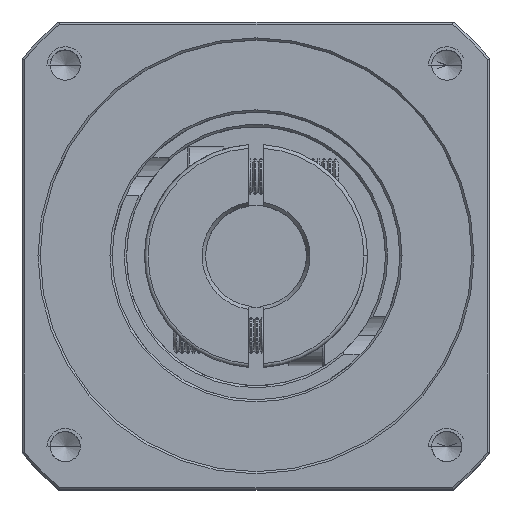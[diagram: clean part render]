
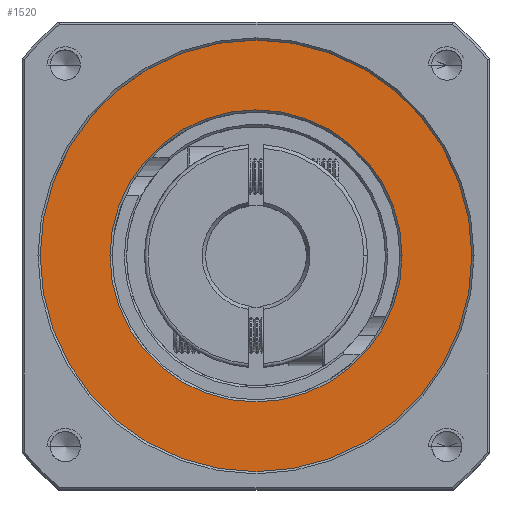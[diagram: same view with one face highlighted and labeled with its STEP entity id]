
A CAD part, top view. The second image highlights one B-rep face of the part: STEP entity #1520.
In plain terms, the highlighted planar face has unit normal (0, 0, 1).
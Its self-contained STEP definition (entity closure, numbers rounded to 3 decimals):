
#1500 = DIRECTION ( 'NONE',  ( 1., 0., 0. ) ) ;
#1520 = ADVANCED_FACE ( 'NONE', ( #51260, #32848 ), #10464, .T. ) ;
#2275 = DIRECTION ( 'NONE',  ( 0., 0., -1. ) ) ;
#4952 = EDGE_LOOP ( 'NONE', ( #49680, #50543 ) ) ;
#7741 = DIRECTION ( 'NONE',  ( 1., 0., 0. ) ) ;
#8182 = AXIS2_PLACEMENT_3D ( 'NONE', #49224, #2275, #57162 ) ;
#10464 = PLANE ( 'NONE',  #51450 ) ;
#10751 = CIRCLE ( 'NONE', #76018, 30. ) ;
#14114 = CARTESIAN_POINT ( 'NONE',  ( -44.957, 22.264, 44.201 ) ) ;
#20878 = EDGE_CURVE ( 'NONE', #69646, #21888, #10751, .T. ) ;
#21888 = VERTEX_POINT ( 'NONE', #14114 ) ;
#25643 = EDGE_LOOP ( 'NONE', ( #31709, #58316 ) ) ;
#26237 = CARTESIAN_POINT ( 'NONE',  ( -104.957, 22.264, 44.201 ) ) ;
#31709 = ORIENTED_EDGE ( 'NONE', *, *, #86181, .T. ) ;
#32848 = FACE_OUTER_BOUND ( 'NONE', #4952, .T. ) ;
#34864 = DIRECTION ( 'NONE',  ( 0., 0., 1. ) ) ;
#41991 = CARTESIAN_POINT ( 'NONE',  ( -74.957, 22.264, 44.201 ) ) ;
#46244 = CIRCLE ( 'NONE', #49422, 30. ) ;
#47996 = CARTESIAN_POINT ( 'NONE',  ( -54.657, 22.264, 44.201 ) ) ;
#48282 = CIRCLE ( 'NONE', #8182, 20.3 ) ;
#48414 = DIRECTION ( 'NONE',  ( 0., 0., 1. ) ) ;
#49224 = CARTESIAN_POINT ( 'NONE',  ( -74.957, 22.264, 44.201 ) ) ;
#49422 = AXIS2_PLACEMENT_3D ( 'NONE', #81907, #34864, #89807 ) ;
#49680 = ORIENTED_EDGE ( 'NONE', *, *, #59135, .T. ) ;
#49936 = DIRECTION ( 'NONE',  ( 1., 0., 0. ) ) ;
#50543 = ORIENTED_EDGE ( 'NONE', *, *, #20878, .T. ) ;
#51260 = FACE_BOUND ( 'NONE', #25643, .T. ) ;
#51450 = AXIS2_PLACEMENT_3D ( 'NONE', #41991, #96992, #49936 ) ;
#54776 = DIRECTION ( 'NONE',  ( 0., 0., -1. ) ) ;
#57162 = DIRECTION ( 'NONE',  ( 1., 0., 0. ) ) ;
#58316 = ORIENTED_EDGE ( 'NONE', *, *, #89590, .T. ) ;
#59135 = EDGE_CURVE ( 'NONE', #21888, #69646, #46244, .T. ) ;
#69646 = VERTEX_POINT ( 'NONE', #26237 ) ;
#76018 = AXIS2_PLACEMENT_3D ( 'NONE', #95498, #48414, #1500 ) ;
#79577 = CARTESIAN_POINT ( 'NONE',  ( -95.257, 22.264, 44.201 ) ) ;
#81535 = AXIS2_PLACEMENT_3D ( 'NONE', #101818, #54776, #7741 ) ;
#81907 = CARTESIAN_POINT ( 'NONE',  ( -74.957, 22.264, 44.201 ) ) ;
#86181 = EDGE_CURVE ( 'NONE', #96367, #101258, #48282, .T. ) ;
#89590 = EDGE_CURVE ( 'NONE', #101258, #96367, #94804, .T. ) ;
#89807 = DIRECTION ( 'NONE',  ( 1., 0., 0. ) ) ;
#94804 = CIRCLE ( 'NONE', #81535, 20.3 ) ;
#95498 = CARTESIAN_POINT ( 'NONE',  ( -74.957, 22.264, 44.201 ) ) ;
#96367 = VERTEX_POINT ( 'NONE', #47996 ) ;
#96992 = DIRECTION ( 'NONE',  ( 0., 0., 1. ) ) ;
#101258 = VERTEX_POINT ( 'NONE', #79577 ) ;
#101818 = CARTESIAN_POINT ( 'NONE',  ( -74.957, 22.264, 44.201 ) ) ;
